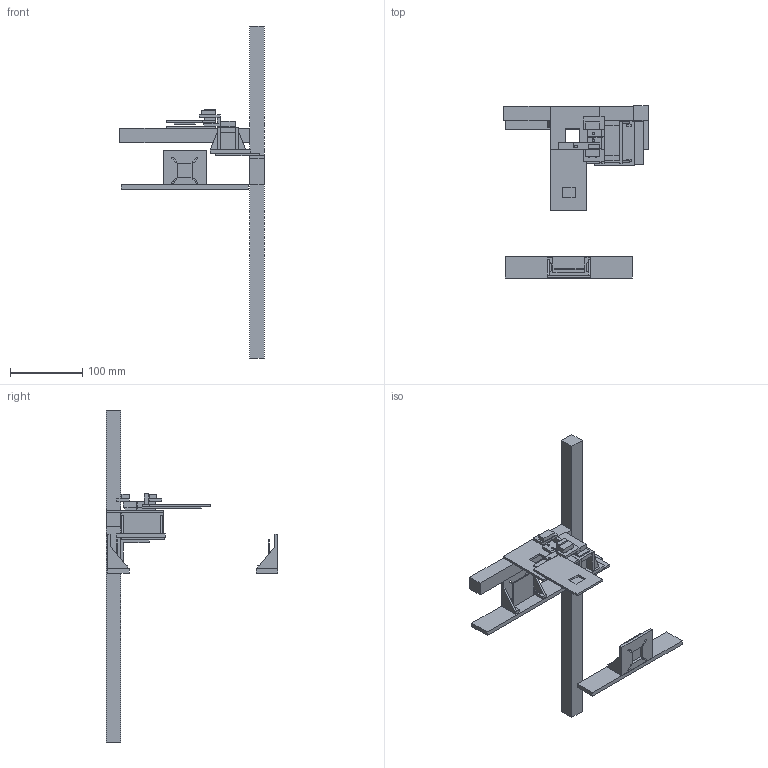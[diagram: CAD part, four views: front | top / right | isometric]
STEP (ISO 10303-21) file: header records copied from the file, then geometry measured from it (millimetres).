
FILE_DESCRIPTION(('Open CASCADE Model'),'2;1');
FILE_NAME('Open CASCADE Shape Model','2026-10-22T07:40:55',('Author'),( 'Open CASCADE'),'Open CASCADE STEP processor 7.8','Open CASCADE 7.8' ,'Unknown');
FILE_SCHEMA(('AUTOMOTIVE_DESIGN { 1 0 10303 214 1 1 1 1 }'));
Length unit declared in the file: millimetre
Products named in the file (21): H3-P2_printed_and_reference_NOT_FOR_PRINT; servo-cradle-mm; camera-front-mm; camera-rear-mm; limit-closed-seat-mm; limit-open-seat-mm; gate-limit-flag-mm; servo-case-reference; aluminum-base-reference; metal-angle-reference; rear-crossbeam-reference; carrier-PP3-reference; rear-right-upright-reference; front-wood-reference; rear-wood-reference; gate-guide-reference; gate-reference; camera-A-PCB-reference; camera-B-PCB-reference; limit-closed-case-reference; limit-open-case-reference
Assembly tree (20 placements, depth 2):
  H3-P2_printed_and_reference_NOT_FOR_PRINT
    servo-cradle-mm
    camera-front-mm
    camera-rear-mm
    limit-closed-seat-mm
    limit-open-seat-mm
    gate-limit-flag-mm
    servo-case-reference
    aluminum-base-reference
    metal-angle-reference
    rear-crossbeam-reference
    carrier-PP3-reference
    rear-right-upright-reference
    front-wood-reference
    rear-wood-reference
    gate-guide-reference
    gate-reference
    camera-A-PCB-reference
    camera-B-PCB-reference
    limit-closed-case-reference
    limit-open-case-reference
Bounding box: 200 x 238 x 460 mm (x, y, z)
Volume: 475241.8 mm3; surface area: 174242.3 mm2
Topology: 20 solids, 20 shells, 331 faces, 924 edges, 616 vertices
Faces by surface type: plane 278, cylinder 53
Full cylindrical faces by diameter (mm): 3.4 x5
Entity records: 22911 total; most frequent: CARTESIAN_POINT 4613, DIRECTION 3092, LINE 2105, VECTOR 2105, ORIENTED_EDGE 1848, PCURVE 1848, DEFINITIONAL_REPRESENTATION 1848, EDGE_CURVE 924
